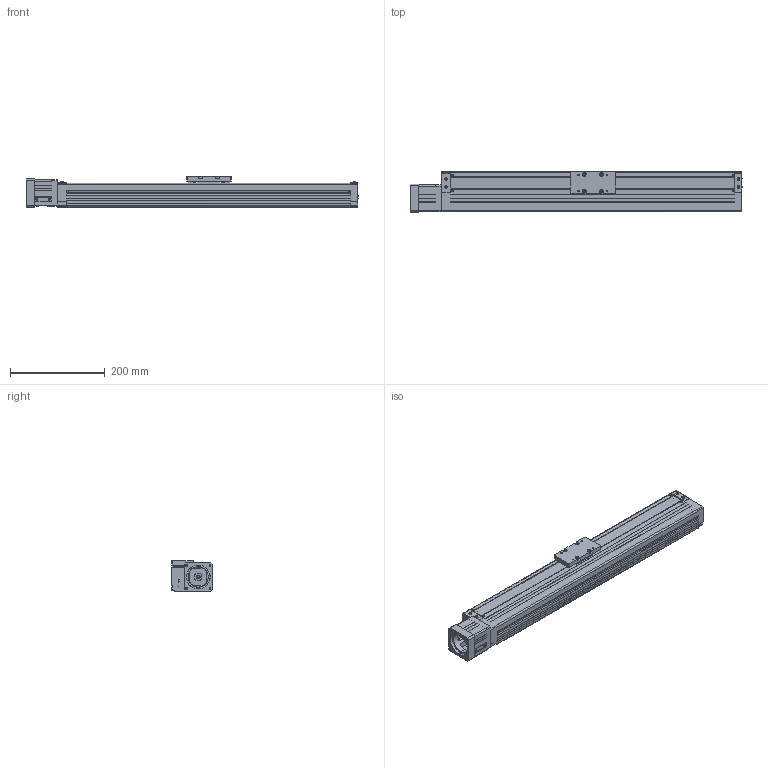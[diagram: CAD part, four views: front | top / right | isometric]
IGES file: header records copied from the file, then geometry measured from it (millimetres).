
Global section: file name: No Iges File Name specified; native system: AutoDesk Inventor R10; preprocessor: AutoDesk Inventor Iges Exporter R10; author: No Author specified; organization: No Organization specified; date: 20110701.175125; units: millimetre
Bounding box: 701 x 86.45 x 65 mm (x, y, z)
Surface area: 440186.6 mm2 (no closed solid volume)
Topology: 0 solids, 0 shells, 946 faces, 5940 edges, 5916 vertices
Faces by surface type: bspline 946
